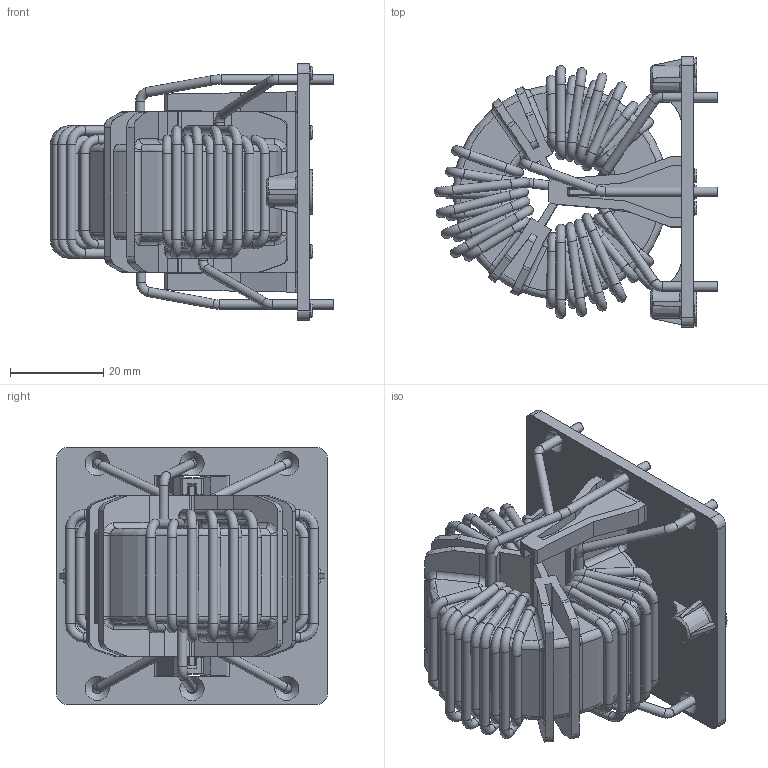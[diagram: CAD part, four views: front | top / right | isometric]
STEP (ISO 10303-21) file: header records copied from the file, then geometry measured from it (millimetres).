
FILE_DESCRIPTION((''),'2;1');
FILE_NAME('K:\Development\Projects\RB\Angel_standard choke series 2011\70_Realization_Revision\702_MechanicalDesign\RB8532-16-1M3 for customer_包覆面提取_1.stp','2013-03-05T13:46:25',('Bin.Fan'),(''),'Autodesk Inventor 2010','Autodesk Inventor 2010','');
FILE_SCHEMA(('AUTOMOTIVE_DESIGN { 1 0 10303 214 1 1 1 1 }'));
Length unit declared in the file: millimetre
Products named in the file (1): RB8532-16-1M3  for customer_包覆面提取_1
Bounding box: 60.8 x 58 x 55 mm (x, y, z)
Volume: 47171 mm3; surface area: 36806 mm2
Topology: 1 solids, 1 shells, 1047 faces, 2927 edges, 1793 vertices
Faces by surface type: plane 367, cylinder 233, bspline 232, torus 187, cone 28
Full cylindrical faces by diameter (mm): 2 x82, 2.2 x6, 3 x8, 9.6 x1
Entity records: 41062 total; most frequent: CARTESIAN_POINT 16465, ORIENTED_EDGE 5140, DIRECTION 4313, EDGE_CURVE 2570, VERTEX_POINT 1676, AXIS2_PLACEMENT_3D 1604, EDGE_LOOP 1298, VECTOR 1105
